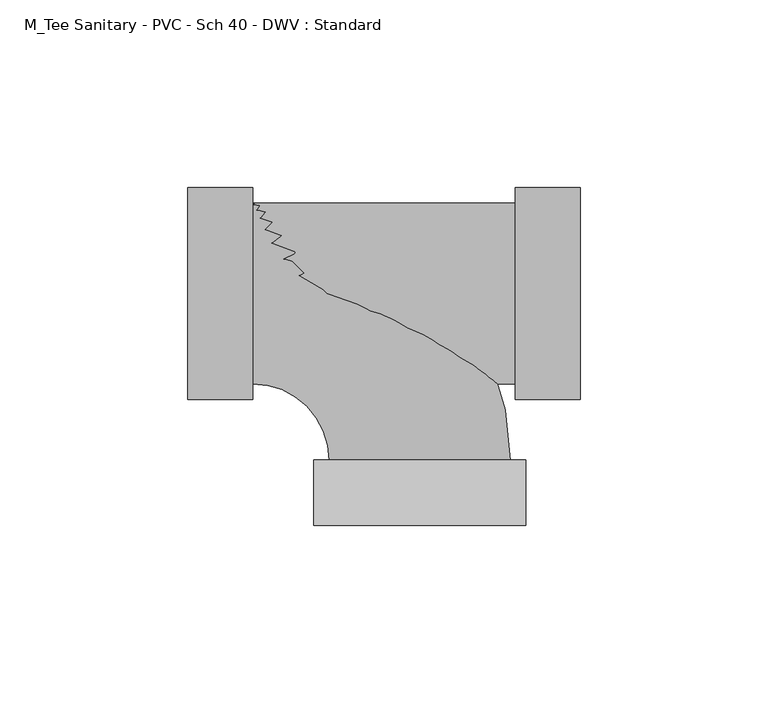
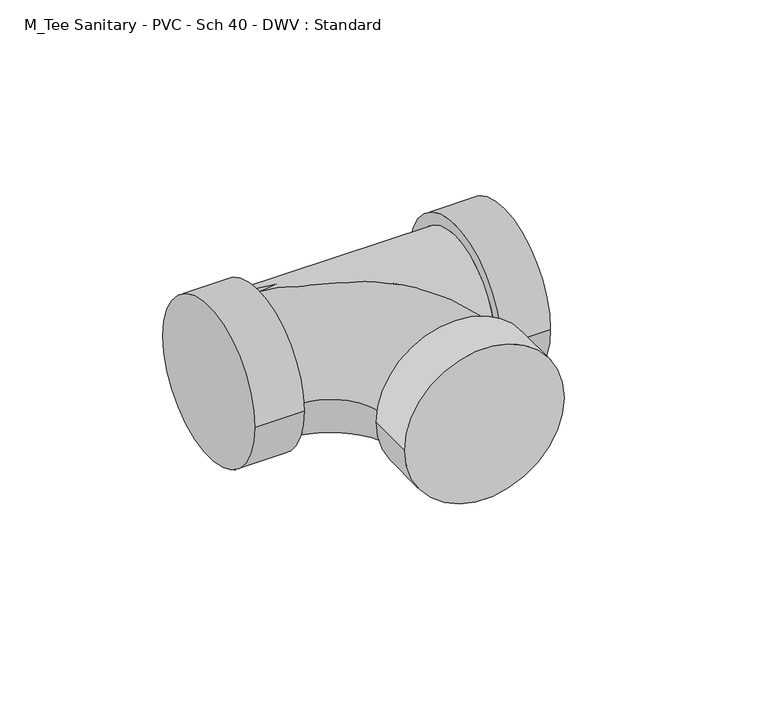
"""IFC4 building model written with IfcOpenShell, lengths in millimetres: pipe fitting geometry, M_Tee Sanitary - PVC - Sch 40 - DWV : Standard."""

from ifc_helpers import new_model, si_unit, point, frame, origin, place, context, project, spatial, circle_curve, ellipse_curve, trimmed, source, transform, mapped, element, save
from ifc_brep_helpers import plane_surface, cylinder_surface, revolved_surface, advanced_brep


def m_tee_sanitary_pvc_sch_40_dwv_standard_0d87e33f(model_context):
    return source(origin(), model_context, "Body", "AdvancedBrep", [
        advanced_brep(
        [(-44.45, -24.13, 0.0), (-44.45, 24.13, 0.0), (-24.13, -44.45, 0.0), (24.13, -44.45, 0.0), (28.2829, -61.8998, 0.0), (-28.2829, -61.8998, 0.0), (28.2829, -44.45, 0.0), (-28.2829, -44.45, 0.0)],
        [
            (0, 1, circle_curve(frame((-44.45, 0.0, 0.0), z_axis=(-1.0, 0.0, 0.0), x_axis=(0.0, 1.0, 0.0)), 24.13)),
            (1, 0, circle_curve(frame((-44.45, 0.0, 0.0), z_axis=(-1.0, 0.0, 0.0), x_axis=(0.0, 1.0, 0.0)), 24.13)),
            (0, 2, circle_curve(frame((-44.45, -44.45, 0.0), z_axis=(0.0, 0.0, -1.0), x_axis=(0.0, 1.0, 0.0)), 20.32)),
            (2, 3, circle_curve(frame((0.0, -44.45, 0.0), z_axis=(-1.3891722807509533e-12, 1.0, 0.0), x_axis=(1.0, 1.3891722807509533e-12, 0.0)), 24.13)),
            (3, 1, circle_curve(frame((-44.45, -44.45, 0.0), z_axis=(0.0, 0.0, 1.0), x_axis=(0.0, 1.0, 0.0)), 68.58)),
            (3, 2, circle_curve(frame((0.0, -44.45, 0.0), z_axis=(-1.0287938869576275e-12, 1.0, 0.0), x_axis=(1.0, 1.0287938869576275e-12, 0.0)), 24.13)),
            (4, 5, circle_curve(frame((0.0, -61.8998, 0.0), z_axis=(0.0, -1.0, 0.0), x_axis=(-1.0, 0.0, 0.0)), 28.2829)),
            (5, 4, circle_curve(frame((0.0, -61.8998, 0.0), z_axis=(0.0, -1.0, 0.0), x_axis=(-1.0, 0.0, 0.0)), 28.2829)),
            (6, 7, circle_curve(frame((0.0, -44.45, 0.0), z_axis=(0.0, 1.0, 0.0), x_axis=(-1.0, 0.0, 0.0)), 28.2829)),
            (7, 6, circle_curve(frame((0.0, -44.45, 0.0), z_axis=(0.0, 1.0, 0.0), x_axis=(-1.0, 0.0, 0.0)), 28.2829)),
            (4, 6),
            (7, 5),
        ],
        [
            plane_surface(frame((-44.45, 0.0, 0.0), z_axis=(-1.0, 0.0, 0.0), x_axis=(0.0, 0.0, 1.0))),
            revolved_surface(trimmed(ellipse_curve(frame((-44.45, 0.0, 0.0), z_axis=(-1.0, 0.0, 0.0), x_axis=(0.0, 1.0, 0.0)), 24.13, 24.13), [point((-44.45, -24.13, 0.0))], [point((-44.45, 24.13, 0.0))], True, "CARTESIAN"), (-44.45, -44.45, 0.0), (0.0, 0.0, -1.0)),
            revolved_surface(trimmed(ellipse_curve(frame((-44.45, 0.0, 0.0), z_axis=(-1.0, 0.0, 0.0), x_axis=(0.0, 1.0, 0.0)), 24.13, 24.13), [point((-44.45, 24.13, 0.0))], [point((-44.45, -24.13, 0.0))], True, "CARTESIAN"), (-44.45, -44.45, 0.0), (0.0, 0.0, -1.0)),
            plane_surface(frame((0.0, -61.8998, 0.0), z_axis=(0.0, -1.0, 0.0), x_axis=(0.0, 0.0, 1.0))),
            plane_surface(frame((0.0, -44.45, 0.0), z_axis=(0.0, 1.0, 0.0), x_axis=(0.0, 0.0, 1.0))),
            cylinder_surface(frame((0.0, -61.8998, 0.0), z_axis=(0.0, -1.0, 0.0), x_axis=(-1.0, 0.0, 0.0)), 28.2829),
        ],
        [
            (0, [[1, 2]]),
            (1, [[-1, 3, 4, 5]]),
            (2, [[-2, -5, 6, -3]]),
            (3, [[7, 8]]),
            (4, [[9, 10], [-4, -6]]),
            (5, [[-7, 11, -10, 12]]),
            (5, [[-8, -12, -9, -11]]),
        ],
    ),
        advanced_brep(
        [(-44.45, -24.13, 0.0), (25.4, -24.13, 0.0), (25.4, 24.13, 0.0), (-44.45, 24.13, 0.0), (25.4, -28.2829, 0.0), (25.4, 28.2829, 0.0), (42.8498, -28.2829, 0.0), (42.8498, 28.2829, 0.0), (-61.8998, -28.2829, 0.0), (-61.8998, 28.2829, 0.0), (-44.45, -28.2829, 0.0), (-44.45, 28.2829, 0.0)],
        [
            (0, 1),
            (1, 2, circle_curve(frame((25.4, 0.0, 0.0), z_axis=(-1.0, 0.0, 0.0), x_axis=(0.0, 1.0, 0.0)), 24.13)),
            (2, 3),
            (3, 0, circle_curve(frame((-44.45, 0.0, 0.0), z_axis=(1.0, 0.0, 0.0), x_axis=(0.0, 1.0, 0.0)), 24.13)),
            (0, 3, circle_curve(frame((-44.45, 0.0, 0.0), z_axis=(1.0, 0.0, 0.0), x_axis=(0.0, 1.0, 0.0)), 24.13)),
            (2, 1, circle_curve(frame((25.4, 0.0, 0.0), z_axis=(-1.0, 0.0, 0.0), x_axis=(0.0, 1.0, 0.0)), 24.13)),
            (4, 5, circle_curve(frame((25.4, 0.0, 0.0), z_axis=(-1.0, 0.0, 0.0), x_axis=(0.0, 1.0, 0.0)), 28.2829)),
            (5, 4, circle_curve(frame((25.4, 0.0, 0.0), z_axis=(-1.0, 0.0, 0.0), x_axis=(0.0, 1.0, 0.0)), 28.2829)),
            (6, 7, circle_curve(frame((42.8498, 0.0, 0.0), z_axis=(1.0, 0.0, 0.0), x_axis=(0.0, 1.0, 0.0)), 28.2829)),
            (7, 6, circle_curve(frame((42.8498, 0.0, 0.0), z_axis=(1.0, 0.0, 0.0), x_axis=(0.0, 1.0, 0.0)), 28.2829)),
            (4, 6),
            (7, 5),
            (8, 9, circle_curve(frame((-61.8998, 0.0, 0.0), z_axis=(-1.0, 0.0, 0.0), x_axis=(0.0, 1.0, 0.0)), 28.2829)),
            (9, 8, circle_curve(frame((-61.8998, 0.0, 0.0), z_axis=(-1.0, 0.0, 0.0), x_axis=(0.0, 1.0, 0.0)), 28.2829)),
            (10, 11, circle_curve(frame((-44.45, 0.0, 0.0), z_axis=(1.0, 0.0, 0.0), x_axis=(0.0, 1.0, 0.0)), 28.2829)),
            (11, 10, circle_curve(frame((-44.45, 0.0, 0.0), z_axis=(1.0, 0.0, 0.0), x_axis=(0.0, 1.0, 0.0)), 28.2829)),
            (8, 10),
            (11, 9),
        ],
        [
            cylinder_surface(frame((-44.45, 0.0, 0.0), z_axis=(-1.0, 0.0, 0.0), x_axis=(0.0, 1.0, 0.0)), 24.13),
            plane_surface(frame((25.4, 0.0, 0.0), z_axis=(-1.0, 0.0, 0.0), x_axis=(0.0, 0.0, 1.0))),
            plane_surface(frame((42.8498, 0.0, 0.0), z_axis=(1.0, 0.0, 0.0), x_axis=(0.0, 0.0, 1.0))),
            cylinder_surface(frame((25.4, 0.0, 0.0), z_axis=(-1.0, 0.0, 0.0), x_axis=(0.0, 1.0, 0.0)), 28.2829),
            plane_surface(frame((-61.8998, 0.0, 0.0), z_axis=(-1.0, 0.0, 0.0), x_axis=(0.0, 0.0, 1.0))),
            plane_surface(frame((-44.45, 0.0, 0.0), z_axis=(1.0, 0.0, 0.0), x_axis=(0.0, 0.0, 1.0))),
            cylinder_surface(frame((-61.8998, 0.0, 0.0), z_axis=(-1.0, 0.0, 0.0), x_axis=(0.0, 1.0, 0.0)), 28.2829),
        ],
        [
            (0, [[1, 2, 3, 4]]),
            (0, [[-1, 5, -3, 6]]),
            (1, [[7, 8], [-2, -6]]),
            (2, [[9, 10]]),
            (3, [[-7, 11, -10, 12]]),
            (3, [[-8, -12, -9, -11]]),
            (4, [[13, 14]]),
            (5, [[15, 16], [-4, -5]]),
            (6, [[-13, 17, -16, 18]]),
            (6, [[-14, -18, -15, -17]]),
        ],
    ),
    ])


if __name__ == "__main__":
    model = new_model("IFC4")
    model_context = context("Model", 3, world=origin())
    ifc_project = project(units=[si_unit("LENGTHUNIT", "METRE", prefix="MILLI")], contexts=[model_context])
    site = spatial("IfcSite", under=ifc_project)
    building = spatial("IfcBuilding", under=site)
    placement = place(None, origin())
    m_tee_sanitary_pvc_sch_40_dwv_standard_shape = m_tee_sanitary_pvc_sch_40_dwv_standard_0d87e33f(model_context)
    element("IfcPipeFitting", 1, ObjectType="M_Tee Sanitary - PVC - Sch 40 - DWV : Standard", at=placement, inside=building, context=model_context, shape_type="MappedRepresentation", body=[
        mapped(m_tee_sanitary_pvc_sch_40_dwv_standard_shape, transform((0.0, 0.0, 0.0), x_axis=(1.0, 0.0, 0.0), y_axis=(0.0, 1.0, 0.0), z_axis=(0.0, 0.0, 1.0))),
    ])
    save(model, "model.ifc")
